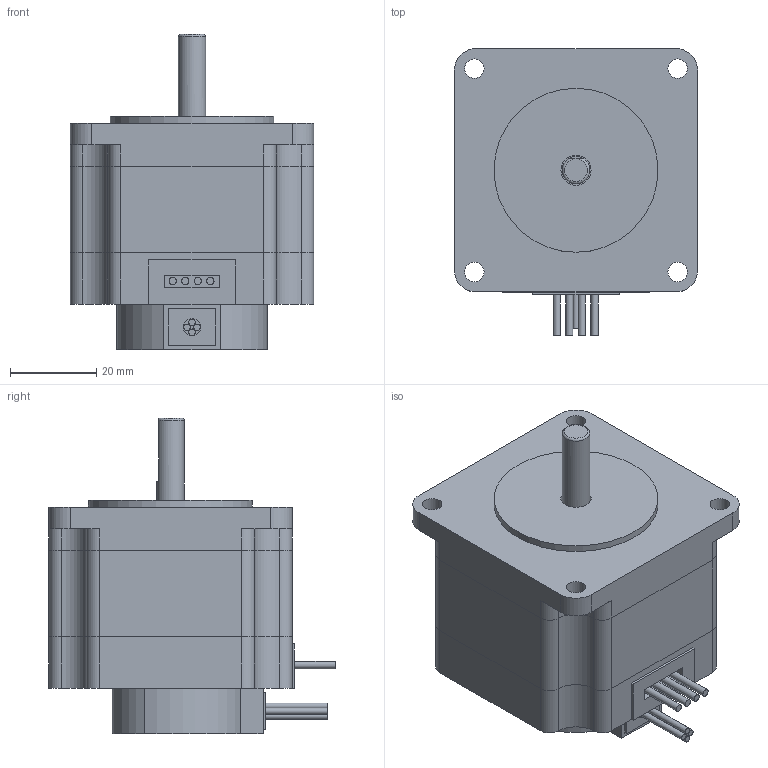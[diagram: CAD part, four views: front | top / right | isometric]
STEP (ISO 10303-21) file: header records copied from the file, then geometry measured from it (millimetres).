
FILE_DESCRIPTION(/* description */ (''),/* implementation_level */ '2;1');
FILE_NAME(/* name */ 'STP-59D1-Y16-93680.stp',/* time_stamp */ '2018-09-03T09:43:18+08:00',/* author */ (''),/* organization */ (''),/* preprocessor_version */ 'ST-DEVELOPER v11',/* originating_system */ 'SIEMENS UGS NX 6.0',/* authorisation */ '');
FILE_SCHEMA (('CONFIG_CONTROL_DESIGN'));
Length unit declared in the file: millimetre
Products named in the file (1): STP-59D1-Y16-93680
Bounding box: 56.4 x 66.4 x 73.1 mm (x, y, z)
Volume: 134275.8 mm3; surface area: 29492 mm2
Topology: 3 solids, 3 shells, 116 faces, 293 edges, 198 vertices
Faces by surface type: cylinder 59, plane 56, torus 1
Full cylindrical faces by diameter (mm): 1.5 x4, 1.7 x4, 4 x1, 4.5 x4, 6.35 x1, 7 x1, 38 x1
Entity records: 3501 total; most frequent: DIRECTION 619, CARTESIAN_POINT 608, ORIENTED_EDGE 534, EDGE_CURVE 267, AXIS2_PLACEMENT_3D 237, VERTEX_POINT 188, EDGE_LOOP 155, LINE 145
